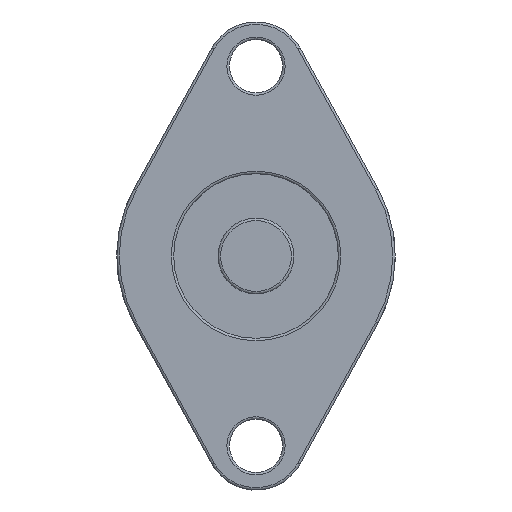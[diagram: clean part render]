
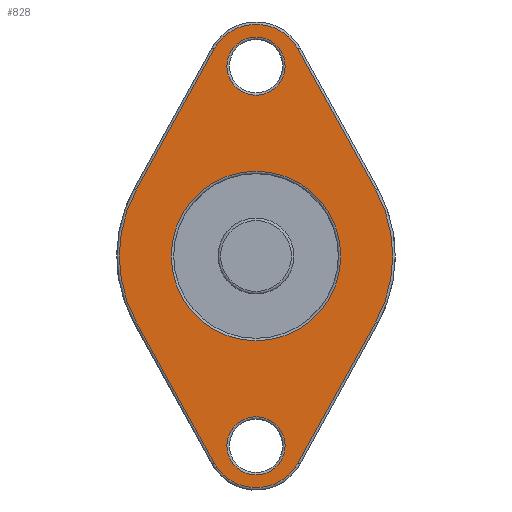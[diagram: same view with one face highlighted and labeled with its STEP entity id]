
A CAD part, left-side view. The second image highlights one B-rep face of the part: STEP entity #828.
In plain terms, the highlighted planar face has unit normal (-1, 0, 0).
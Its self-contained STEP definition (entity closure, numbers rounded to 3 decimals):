
#45 = ORIENTED_EDGE ( 'NONE', *, *, #123, .T. ) ;
#49 = EDGE_CURVE ( 'NONE', #1150, #4130, #478, .T. ) ;
#123 = EDGE_CURVE ( 'NONE', #1518, #876, #3602, .T. ) ;
#124 = DIRECTION ( 'NONE',  ( 0., 0.483, 0.876 ) ) ;
#159 = AXIS2_PLACEMENT_3D ( 'NONE', #1040, #3613, #2370 ) ;
#166 = CARTESIAN_POINT ( 'NONE',  ( 4., 3.328, -16.334 ) ) ;
#198 = EDGE_CURVE ( 'NONE', #1677, #1677, #821, .T. ) ;
#263 = DIRECTION ( 'NONE',  ( -1., 0., 0. ) ) ;
#282 = EDGE_CURVE ( 'NONE', #327, #2734, #919, .T. ) ;
#301 = CARTESIAN_POINT ( 'NONE',  ( 4., 0., 14.5 ) ) ;
#327 = VERTEX_POINT ( 'NONE', #911 ) ;
#449 = PLANE ( 'NONE',  #1030 ) ;
#478 = LINE ( 'NONE', #1311, #525 ) ;
#493 = ORIENTED_EDGE ( 'NONE', *, *, #1209, .T. ) ;
#499 = EDGE_LOOP ( 'NONE', ( #681 ) ) ;
#525 = VECTOR ( 'NONE', #1823, 1000. ) ;
#550 = AXIS2_PLACEMENT_3D ( 'NONE', #3195, #1237, #620 ) ;
#562 = CARTESIAN_POINT ( 'NONE',  ( 4., 0., -17.3 ) ) ;
#589 = CARTESIAN_POINT ( 'NONE',  ( 4., 0., 0. ) ) ;
#599 = DIRECTION ( 'NONE',  ( -1., 0., 0. ) ) ;
#620 = DIRECTION ( 'NONE',  ( 0., 0., -1. ) ) ;
#624 = CARTESIAN_POINT ( 'NONE',  ( 4., 9.458, 5.214 ) ) ;
#681 = ORIENTED_EDGE ( 'NONE', *, *, #198, .T. ) ;
#736 = DIRECTION ( 'NONE',  ( 1., 0., 0. ) ) ;
#767 = EDGE_CURVE ( 'NONE', #2119, #2119, #3536, .T. ) ;
#770 = AXIS2_PLACEMENT_3D ( 'NONE', #3732, #2179, #1538 ) ;
#792 = CARTESIAN_POINT ( 'NONE',  ( 4., -3.328, 16.334 ) ) ;
#821 = CIRCLE ( 'NONE', #3940, 2.3 ) ;
#828 = ADVANCED_FACE ( 'NONE', ( #954, #2135, #3724, #2033 ), #449, .F. ) ;
#876 = VERTEX_POINT ( 'NONE', #3300 ) ;
#900 = ORIENTED_EDGE ( 'NONE', *, *, #3392, .T. ) ;
#911 = CARTESIAN_POINT ( 'NONE',  ( 4., -3.328, 16.334 ) ) ;
#919 = CIRCLE ( 'NONE', #1931, 3.8 ) ;
#937 = CARTESIAN_POINT ( 'NONE',  ( 4., 0., -6.7 ) ) ;
#954 = FACE_BOUND ( 'NONE', #2416, .T. ) ;
#1030 = AXIS2_PLACEMENT_3D ( 'NONE', #3612, #736, #3948 ) ;
#1040 = CARTESIAN_POINT ( 'NONE',  ( 4., 0., 0. ) ) ;
#1056 = VERTEX_POINT ( 'NONE', #937 ) ;
#1064 = VERTEX_POINT ( 'NONE', #3153 ) ;
#1073 = CARTESIAN_POINT ( 'NONE',  ( 4., 0., 15. ) ) ;
#1125 = LINE ( 'NONE', #792, #1885 ) ;
#1150 = VERTEX_POINT ( 'NONE', #4127 ) ;
#1209 = EDGE_CURVE ( 'NONE', #2550, #1150, #2947, .T. ) ;
#1237 = DIRECTION ( 'NONE',  ( -1., 0., 0. ) ) ;
#1311 = CARTESIAN_POINT ( 'NONE',  ( 4., 3.328, -16.334 ) ) ;
#1362 = CIRCLE ( 'NONE', #3339, 10.8 ) ;
#1366 = ORIENTED_EDGE ( 'NONE', *, *, #3184, .T. ) ;
#1392 = DIRECTION ( 'NONE',  ( 0., 0., -1. ) ) ;
#1405 = DIRECTION ( 'NONE',  ( 1., 0., 0. ) ) ;
#1518 = VERTEX_POINT ( 'NONE', #1844 ) ;
#1538 = DIRECTION ( 'NONE',  ( 0., 0., -1. ) ) ;
#1570 = EDGE_LOOP ( 'NONE', ( #900, #3799, #1711, #493, #3058, #3362, #45, #3673 ) ) ;
#1677 = VERTEX_POINT ( 'NONE', #562 ) ;
#1711 = ORIENTED_EDGE ( 'NONE', *, *, #2434, .T. ) ;
#1823 = DIRECTION ( 'NONE',  ( 0., -0.483, -0.876 ) ) ;
#1844 = CARTESIAN_POINT ( 'NONE',  ( 4., -3.328, -16.334 ) ) ;
#1876 = DIRECTION ( 'NONE',  ( 1., 0., 0. ) ) ;
#1885 = VECTOR ( 'NONE', #124, 1000. ) ;
#1931 = AXIS2_PLACEMENT_3D ( 'NONE', #301, #599, #3201 ) ;
#1996 = CARTESIAN_POINT ( 'NONE',  ( 4., 9.458, 5.214 ) ) ;
#2018 = EDGE_CURVE ( 'NONE', #876, #1064, #1362, .T. ) ;
#2033 = FACE_BOUND ( 'NONE', #499, .T. ) ;
#2036 = CIRCLE ( 'NONE', #159, 6.7 ) ;
#2059 = AXIS2_PLACEMENT_3D ( 'NONE', #1073, #1405, #1392 ) ;
#2072 = ORIENTED_EDGE ( 'NONE', *, *, #767, .T. ) ;
#2119 = VERTEX_POINT ( 'NONE', #3717 ) ;
#2135 = FACE_OUTER_BOUND ( 'NONE', #1570, .T. ) ;
#2179 = DIRECTION ( 'NONE',  ( -1., 0., 0. ) ) ;
#2180 = CIRCLE ( 'NONE', #770, 3.8 ) ;
#2204 = CARTESIAN_POINT ( 'NONE',  ( 4., 0., -15. ) ) ;
#2272 = EDGE_LOOP ( 'NONE', ( #2072 ) ) ;
#2370 = DIRECTION ( 'NONE',  ( 0., 0., -1. ) ) ;
#2416 = EDGE_LOOP ( 'NONE', ( #1366 ) ) ;
#2434 = EDGE_CURVE ( 'NONE', #2734, #2550, #2735, .T. ) ;
#2550 = VERTEX_POINT ( 'NONE', #1996 ) ;
#2734 = VERTEX_POINT ( 'NONE', #3987 ) ;
#2735 = LINE ( 'NONE', #624, #4116 ) ;
#2905 = CARTESIAN_POINT ( 'NONE',  ( 4., -9.458, -5.214 ) ) ;
#2908 = DIRECTION ( 'NONE',  ( 0., 0., -1. ) ) ;
#2947 = CIRCLE ( 'NONE', #550, 10.8 ) ;
#3058 = ORIENTED_EDGE ( 'NONE', *, *, #49, .T. ) ;
#3153 = CARTESIAN_POINT ( 'NONE',  ( 4., -9.458, 5.214 ) ) ;
#3166 = VECTOR ( 'NONE', #3209, 1000. ) ;
#3184 = EDGE_CURVE ( 'NONE', #1056, #1056, #2036, .T. ) ;
#3195 = CARTESIAN_POINT ( 'NONE',  ( 4., 0., 0. ) ) ;
#3201 = DIRECTION ( 'NONE',  ( 0., 0., -1. ) ) ;
#3209 = DIRECTION ( 'NONE',  ( 0., -0.483, 0.876 ) ) ;
#3300 = CARTESIAN_POINT ( 'NONE',  ( 4., -9.458, -5.214 ) ) ;
#3339 = AXIS2_PLACEMENT_3D ( 'NONE', #589, #263, #2908 ) ;
#3362 = ORIENTED_EDGE ( 'NONE', *, *, #4143, .T. ) ;
#3392 = EDGE_CURVE ( 'NONE', #1064, #327, #1125, .T. ) ;
#3505 = DIRECTION ( 'NONE',  ( 0., 0.483, -0.876 ) ) ;
#3536 = CIRCLE ( 'NONE', #2059, 2.3 ) ;
#3602 = LINE ( 'NONE', #2905, #3166 ) ;
#3612 = CARTESIAN_POINT ( 'NONE',  ( 4., 6.5, 0. ) ) ;
#3613 = DIRECTION ( 'NONE',  ( 1., 0., 0. ) ) ;
#3673 = ORIENTED_EDGE ( 'NONE', *, *, #2018, .T. ) ;
#3717 = CARTESIAN_POINT ( 'NONE',  ( 4., 0., 12.7 ) ) ;
#3724 = FACE_BOUND ( 'NONE', #2272, .T. ) ;
#3732 = CARTESIAN_POINT ( 'NONE',  ( 4., 0., -14.5 ) ) ;
#3799 = ORIENTED_EDGE ( 'NONE', *, *, #282, .T. ) ;
#3940 = AXIS2_PLACEMENT_3D ( 'NONE', #2204, #1876, #4108 ) ;
#3948 = DIRECTION ( 'NONE',  ( 0., 0., -1. ) ) ;
#3987 = CARTESIAN_POINT ( 'NONE',  ( 4., 3.328, 16.334 ) ) ;
#4108 = DIRECTION ( 'NONE',  ( 0., 0., -1. ) ) ;
#4116 = VECTOR ( 'NONE', #3505, 1000. ) ;
#4127 = CARTESIAN_POINT ( 'NONE',  ( 4., 9.458, -5.214 ) ) ;
#4130 = VERTEX_POINT ( 'NONE', #166 ) ;
#4143 = EDGE_CURVE ( 'NONE', #4130, #1518, #2180, .T. ) ;
